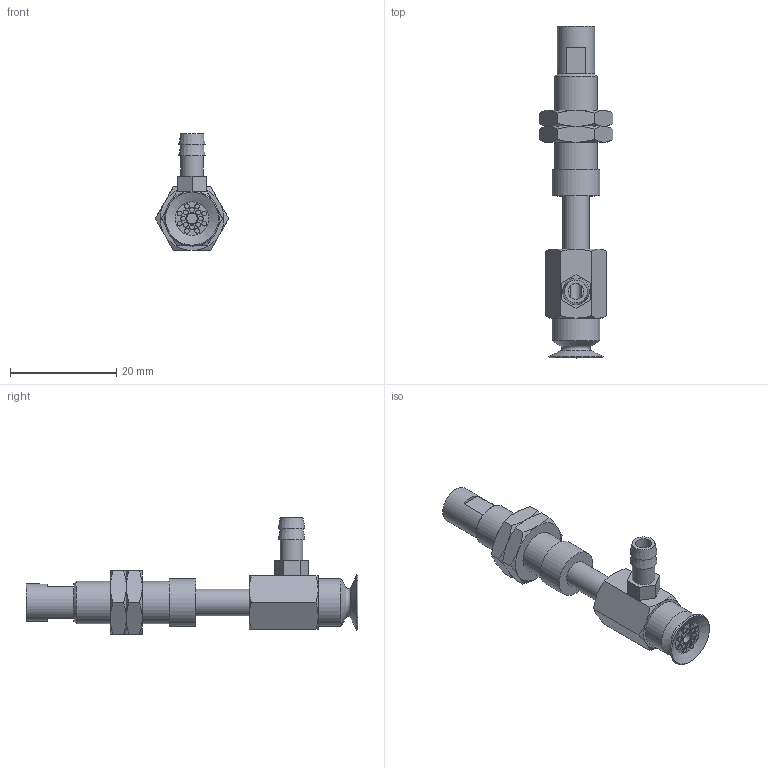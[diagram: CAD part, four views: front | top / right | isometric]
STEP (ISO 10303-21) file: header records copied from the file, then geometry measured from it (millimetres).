
FILE_DESCRIPTION(('STEP AP203'),'1');
FILE_NAME('-T.stp','2025-02-11T06:12:58',(' '),(' '),'Spatial InterOp 3D',' ',' ');
FILE_SCHEMA(('CONFIG_CONTROL_DESIGN'));
Length unit declared in the file: millimetre
Products named in the file (7): BNABPAYS-10A-10-※-T; NAPAYS-10A-10--M; NAPAYS-10A-10--F; Nut-10A-S; CONNECTOR-10A-10-PA; T; BPAG-10A-※_3D
Assembly tree (7 placements, depth 2):
  BNABPAYS-10A-10-※-T
    NAPAYS-10A-10--M
    NAPAYS-10A-10--F
    Nut-10A-S  x2
    CONNECTOR-10A-10-PA
    T
    BPAG-10A-※_3D
Bounding box: 13.86 x 62.5 x 22 mm (x, y, z)
Volume: 3671.8 mm3; surface area: 4643.1 mm2
Topology: 7 solids, 7 shells, 179 faces, 354 edges, 218 vertices
Faces by surface type: plane 79, cone 54, cylinder 36, torus 10
Full cylindrical faces by diameter (mm): 0.9 x16, 2 x2, 3 x1, 4 x2, 4.134 x2, 4.3 x1, 5 x4, 6 x2, 7 x1, 7.188 x2, 8 x1, 9 x2
Entity records: 4230 total; most frequent: CARTESIAN_POINT 932, DIRECTION 638, ORIENTED_EDGE 476, AXIS2_PLACEMENT_3D 290, EDGE_LOOP 256, EDGE_CURVE 238, FACE_OUTER_BOUND 201, VERTEX_POINT 182
